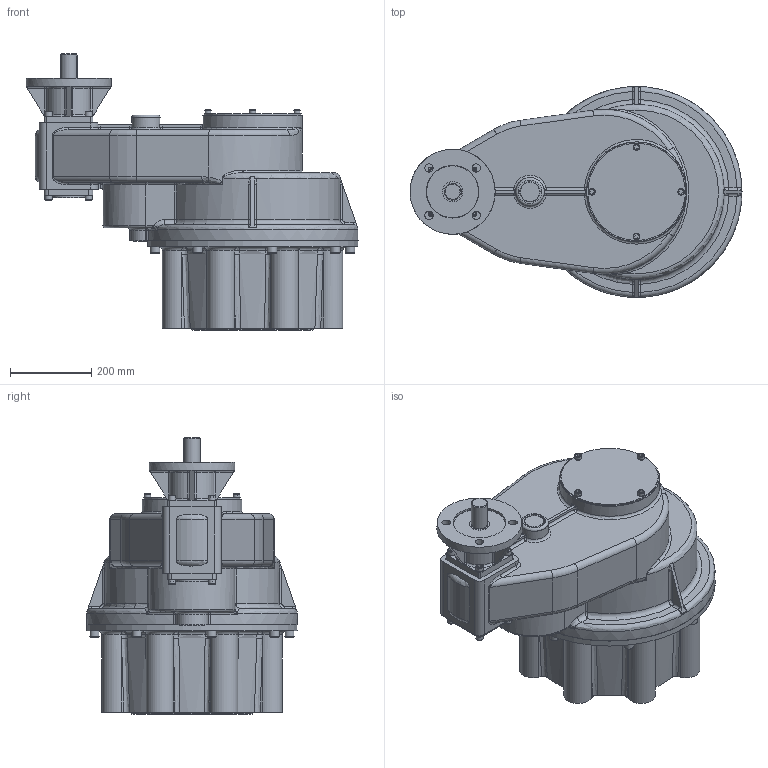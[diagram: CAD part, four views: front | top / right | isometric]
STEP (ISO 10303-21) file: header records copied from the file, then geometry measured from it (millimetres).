
FILE_DESCRIPTION( ( 'Unknown' ), '1' );
FILE_NAME( 'X:/CURRENT/PUB/IS/IS-2011/IS - 3D Models simplified STEP/PUBIS16-F16-F40_simplified.stp', 'Unknown', ( 'Unknown' ), ( 'Unknown' ), 'PSStep 15.0.49', 'Unknown', ' ' );
FILE_SCHEMA( ( 'AUTOMOTIVE_DESIGN { 1 0 10303 214 1 1 1 1 }' ) );
Length unit declared in the file: millimetre
Products named in the file (31): 1; 2; 3; 4; 5; 6; 7; 8; 9; 10; 11; 12; 13; 14; 15; 16; 17; 18; 19; 20; 21; 22; 23; 24; 25; 26; 27; 28; 29; 30; 31
Bounding box: 818.6 x 520 x 681.27 mm (x, y, z)
Surface area: 1905811.8 mm2 (no closed solid volume)
Topology: 0 solids, 677 shells, 677 faces, 3167 edges, 3052 vertices
Faces by surface type: plane 273, cylinder 174, bspline 106, torus 64, cone 32, sphere 28
Full cylindrical faces by diameter (mm): 16 x4, 18 x8, 20.5 x4, 24 x8, 32 x8, 40 x1, 50 x2, 60 x1, 65 x1, 70 x1, 80 x1, 130 x1, 170 x1, 210 x1, 240 x1, 246 x1, 300 x1, 340 x1, 520 x1
Entity records: 59826 total; most frequent: CARTESIAN_POINT 31208, DIRECTION 4784, ORIENTED_EDGE 3020, EDGE_CURVE 3020, VERTEX_POINT 3020, AXIS2_PLACEMENT_3D 1718, LINE 1348, VECTOR 1348
